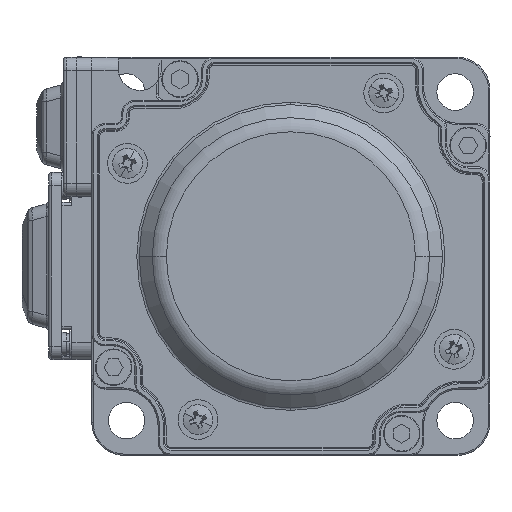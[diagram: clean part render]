
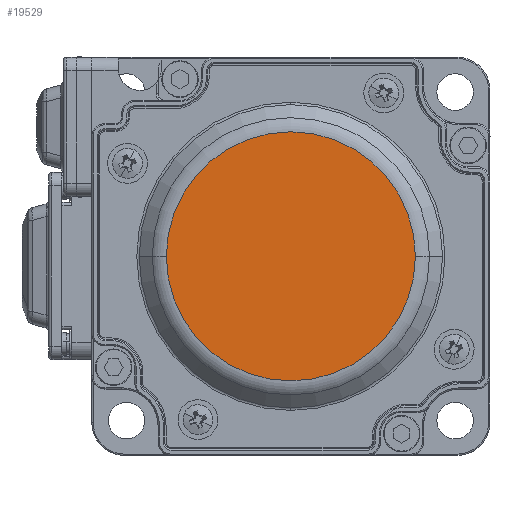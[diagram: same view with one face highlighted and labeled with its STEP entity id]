
A CAD part, left-side view. The second image highlights one B-rep face of the part: STEP entity #19529.
In plain terms, the highlighted planar face has unit normal (-1, 0, 0).
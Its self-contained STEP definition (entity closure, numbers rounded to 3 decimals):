
#585 = ORIENTED_EDGE ( 'NONE', *, *, #8180, .T. ) ;
#2415 = VERTEX_POINT ( 'NONE', #45139 ) ;
#3935 = EDGE_LOOP ( 'NONE', ( #585, #36470 ) ) ;
#5206 = DIRECTION ( 'NONE',  ( 0., 1., 0. ) ) ;
#7188 = PLANE ( 'NONE',  #29690 ) ;
#8180 = EDGE_CURVE ( 'NONE', #2415, #19410, #44327, .T. ) ;
#11484 = DIRECTION ( 'NONE',  ( -1., 0., 0. ) ) ;
#12437 = DIRECTION ( 'NONE',  ( 0., 1., 0. ) ) ;
#14574 = FACE_OUTER_BOUND ( 'NONE', #3935, .T. ) ;
#19410 = VERTEX_POINT ( 'NONE', #24018 ) ;
#19529 = ADVANCED_FACE ( 'NONE', ( #14574 ), #7188, .F. ) ;
#21236 = DIRECTION ( 'NONE',  ( 1., 0., 0. ) ) ;
#23415 = AXIS2_PLACEMENT_3D ( 'NONE', #40031, #11484, #5206 ) ;
#24018 = CARTESIAN_POINT ( 'NONE',  ( -134.051, -57.145, 157.079 ) ) ;
#24139 = CIRCLE ( 'NONE', #23415, 18.757 ) ;
#24945 = CARTESIAN_POINT ( 'NONE',  ( -134.051, -18.387, 157.079 ) ) ;
#25898 = EDGE_CURVE ( 'NONE', #19410, #2415, #24139, .T. ) ;
#29690 = AXIS2_PLACEMENT_3D ( 'NONE', #24945, #21236, #32297 ) ;
#30172 = DIRECTION ( 'NONE',  ( -1., 0., 0. ) ) ;
#32297 = DIRECTION ( 'NONE',  ( 0., 1., 0. ) ) ;
#34702 = AXIS2_PLACEMENT_3D ( 'NONE', #40314, #30172, #12437 ) ;
#36470 = ORIENTED_EDGE ( 'NONE', *, *, #25898, .T. ) ;
#40031 = CARTESIAN_POINT ( 'NONE',  ( -134.051, -38.387, 157.079 ) ) ;
#40314 = CARTESIAN_POINT ( 'NONE',  ( -134.051, -38.387, 157.079 ) ) ;
#44327 = CIRCLE ( 'NONE', #34702, 18.757 ) ;
#45139 = CARTESIAN_POINT ( 'NONE',  ( -134.051, -19.63, 157.079 ) ) ;
